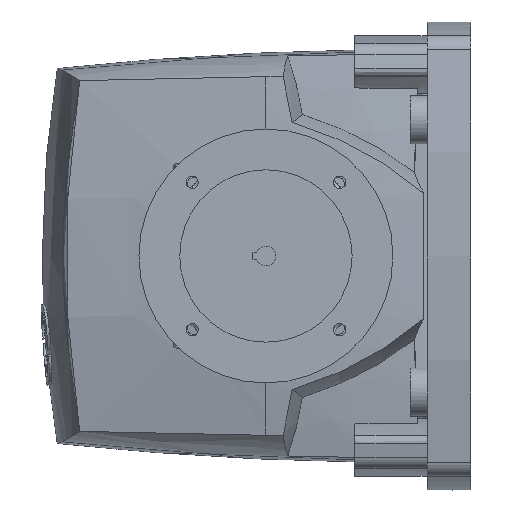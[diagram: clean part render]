
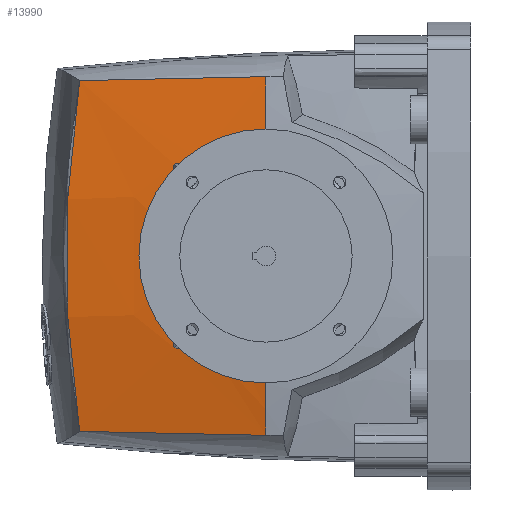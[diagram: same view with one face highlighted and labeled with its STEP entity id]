
A CAD part, left-side view. The second image highlights one B-rep face of the part: STEP entity #13990.
In plain terms, the highlighted free-form (B-spline) face has degree [3, 3] with [4, 4] control points.
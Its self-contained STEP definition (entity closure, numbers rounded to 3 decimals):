
#1754=CARTESIAN_POINT('',(-78.326,215.677,
-96.675));
#1755=CARTESIAN_POINT('',(-79.846,217.513,
-84.291));
#1756=CARTESIAN_POINT('',(-82.319,220.53,
-59.261));
#1757=CARTESIAN_POINT('',(-84.213,223.214,
-20.913));
#1758=CARTESIAN_POINT('',(-84.288,223.332,17.989));
#1759=CARTESIAN_POINT('',(-82.486,220.743,57.273));
#1760=CARTESIAN_POINT('',(-79.939,217.625,83.532));
#1761=CARTESIAN_POINT('',(-78.326,215.677,96.675));
#1824=CARTESIAN_POINT('',(589.642,113.006,
0.));
#1825=DIRECTION('',(0.,1.,0.));
#1826=DIRECTION('',(-0.99,0.,-0.144));
#1827=AXIS2_PLACEMENT_3D('',#1824,#1825,#1826);
#1829=CARTESIAN_POINT('',(-78.326,215.677,
-96.675));
#1830=CARTESIAN_POINT('',(-79.935,204.267,
-97.271));
#1831=CARTESIAN_POINT('',(-83.043,181.448,
-98.215));
#1832=CARTESIAN_POINT('',(-87.373,147.214,
-98.936));
#1833=CARTESIAN_POINT('',(-90.037,124.406,
-98.942));
#1834=CARTESIAN_POINT('',(-91.314,113.006,
-98.834));
#1836=CARTESIAN_POINT('',(-91.314,113.006,98.833));
#1837=CARTESIAN_POINT('',(-90.038,124.406,98.941));
#1838=CARTESIAN_POINT('',(-87.372,147.214,98.937));
#1839=CARTESIAN_POINT('',(-83.043,181.448,98.216));
#1840=CARTESIAN_POINT('',(-79.935,204.267,97.271));
#1841=CARTESIAN_POINT('',(-78.326,215.677,96.675));
#1843=CARTESIAN_POINT('',(589.642,113.006,
0.));
#1844=DIRECTION('',(0.,1.,0.));
#1845=DIRECTION('',(-0.997,0.,0.081));
#1846=AXIS2_PLACEMENT_3D('',#1843,#1844,#1845);
#1855=CARTESIAN_POINT('',(-90.566,163.6,50.6));
#1856=CARTESIAN_POINT('',(-90.926,165.596,42.327));
#1857=CARTESIAN_POINT('',(-91.487,168.604,25.547));
#1858=CARTESIAN_POINT('',(-91.759,170.119,
0.));
#1859=CARTESIAN_POINT('',(-91.486,168.604,
-25.547));
#1860=CARTESIAN_POINT('',(-90.925,165.596,
-42.327));
#1861=CARTESIAN_POINT('',(-90.566,163.6,
-50.6));
#2049=CARTESIAN_POINT('',(-96.183,112.991,55.818));
#2050=CARTESIAN_POINT('',(-95.55,118.676,55.931));
#2051=CARTESIAN_POINT('',(-94.294,130.001,55.688));
#2052=CARTESIAN_POINT('',(-92.413,146.926,53.945));
#2053=CARTESIAN_POINT('',(-91.181,158.075,51.865));
#2054=CARTESIAN_POINT('',(-90.566,163.6,50.6));
#2565=CARTESIAN_POINT('',(-90.566,163.6,
-50.6));
#2566=CARTESIAN_POINT('',(-91.18,158.075,
-51.865));
#2567=CARTESIAN_POINT('',(-92.413,146.925,
-53.945));
#2568=CARTESIAN_POINT('',(-94.293,130.002,
-55.688));
#2569=CARTESIAN_POINT('',(-95.55,118.674,
-55.93));
#2570=CARTESIAN_POINT('',(-96.183,112.995,
-55.818));
#2589=CARTESIAN_POINT('',(-91.314,113.006,98.833));
#10557=CARTESIAN_POINT('',(-91.314,113.006,
-98.834));
#10558=CARTESIAN_POINT('',(-96.182,113.006,
-55.818));
#10559=VERTEX_POINT('',#10557);
#10560=VERTEX_POINT('',#10558);
#10563=VERTEX_POINT('',#2589);
#10628=CARTESIAN_POINT('',(-96.182,113.006,
55.818));
#10629=VERTEX_POINT('',#10628);
#10634=VERTEX_POINT('',#1841);
#10635=VERTEX_POINT('',#1829);
#10992=VERTEX_POINT('',#1855);
#10993=VERTEX_POINT('',#1861);
#13957=CARTESIAN_POINT('',(-76.188,225.431,
101.199));
#13958=CARTESIAN_POINT('',(-81.863,187.324,
102.061));
#13959=CARTESIAN_POINT('',(-86.76,149.107,
102.806));
#13960=CARTESIAN_POINT('',(-90.875,110.796,
103.431));
#13961=CARTESIAN_POINT('',(-86.403,225.431,
33.99));
#13962=CARTESIAN_POINT('',(-92.165,187.324,
34.28));
#13963=CARTESIAN_POINT('',(-97.137,149.107,
34.53));
#13964=CARTESIAN_POINT('',(-101.316,110.796,
34.74));
#13965=CARTESIAN_POINT('',(-86.403,225.431,
-33.99));
#13966=CARTESIAN_POINT('',(-92.165,187.324,
-34.28));
#13967=CARTESIAN_POINT('',(-97.137,149.107,
-34.53));
#13968=CARTESIAN_POINT('',(-101.316,110.796,
-34.74));
#13969=CARTESIAN_POINT('',(-76.188,225.431,
-101.198));
#13970=CARTESIAN_POINT('',(-81.863,187.324,
-102.061));
#13971=CARTESIAN_POINT('',(-86.76,149.107,
-102.805));
#13972=CARTESIAN_POINT('',(-90.875,110.796,
-103.431));
#13973=(BOUNDED_SURFACE()B_SPLINE_SURFACE(3,3,((#13957,#13958,#13959,#13960),(
#13961,#13962,#13963,#13964),(#13965,#13966,#13967,#13968),(#13969,#13970,
#13971,#13972)),.UNSPECIFIED.,.F.,.F.,.F.)B_SPLINE_SURFACE_WITH_KNOTS((4,4),(4,
4),(0.,1.),(0.,1.),.UNSPECIFIED.)GEOMETRIC_REPRESENTATION_ITEM()RATIONAL_B_SPLINE_SURFACE(((1.006,1.006,1.006,
1.006),(0.998,0.998,0.998,
0.998),(0.998,0.998,0.998,
0.998),(1.006,1.006,1.006,
1.006)))REPRESENTATION_ITEM('')SURFACE());
#13975=ORIENTED_EDGE('',*,*,#13974,.T.);
#13977=ORIENTED_EDGE('',*,*,#13976,.T.);
#13979=ORIENTED_EDGE('',*,*,#13978,.F.);
#13980=ORIENTED_EDGE('',*,*,#13588,.F.);
#13981=ORIENTED_EDGE('',*,*,#13943,.T.);
#13983=ORIENTED_EDGE('',*,*,#13982,.F.);
#13985=ORIENTED_EDGE('',*,*,#13984,.F.);
#13987=ORIENTED_EDGE('',*,*,#13986,.T.);
#13988=EDGE_LOOP('',(#13975,#13977,#13979,#13980,#13981,#13983,#13985,#13987));
#13989=FACE_OUTER_BOUND('',#13988,.F.);
#13990=ADVANCED_FACE('',(#13989),#13973,.T.);
#1762=B_SPLINE_CURVE_WITH_KNOTS('',3,(#1754,#1755,#1756,#1757,#1758,#1759,#1760,
#1761),.UNSPECIFIED.,.F.,.F.,(4,1,1,1,1,4),(0.,0.2,0.4,0.6,0.8,1.),
.UNSPECIFIED.);
#1828=CIRCLE('',#1827,688.091);
#1835=B_SPLINE_CURVE_WITH_KNOTS('',3,(#1829,#1830,#1831,#1832,#1833,#1834),
.UNSPECIFIED.,.F.,.F.,(4,1,1,4),(0.,0.333,0.667,1.),
.UNSPECIFIED.);
#1842=B_SPLINE_CURVE_WITH_KNOTS('',3,(#1836,#1837,#1838,#1839,#1840,#1841),
.UNSPECIFIED.,.F.,.F.,(4,1,1,4),(0.,0.333,0.667,1.),
.UNSPECIFIED.);
#1847=CIRCLE('',#1846,688.091);
#1862=B_SPLINE_CURVE_WITH_KNOTS('',3,(#1855,#1856,#1857,#1858,#1859,#1860,
#1861),.UNSPECIFIED.,.F.,.F.,(4,1,1,1,4),(0.,0.25,0.5,0.75,1.),
.UNSPECIFIED.);
#2055=B_SPLINE_CURVE_WITH_KNOTS('',3,(#2049,#2050,#2051,#2052,#2053,#2054),
.UNSPECIFIED.,.F.,.F.,(4,1,1,4),(0.,0.333,0.667,1.),
.UNSPECIFIED.);
#2571=B_SPLINE_CURVE_WITH_KNOTS('',3,(#2565,#2566,#2567,#2568,#2569,#2570),
.UNSPECIFIED.,.F.,.F.,(4,1,1,4),(0.,0.333,0.667,1.),
.UNSPECIFIED.);
#13588=EDGE_CURVE('',#10635,#10559,#1835,.T.);
#13943=EDGE_CURVE('',#10635,#10634,#1762,.T.);
#13974=EDGE_CURVE('',#10992,#10993,#1862,.T.);
#13976=EDGE_CURVE('',#10993,#10560,#2571,.T.);
#13978=EDGE_CURVE('',#10559,#10560,#1828,.T.);
#13982=EDGE_CURVE('',#10563,#10634,#1842,.T.);
#13984=EDGE_CURVE('',#10629,#10563,#1847,.T.);
#13986=EDGE_CURVE('',#10629,#10992,#2055,.T.);
